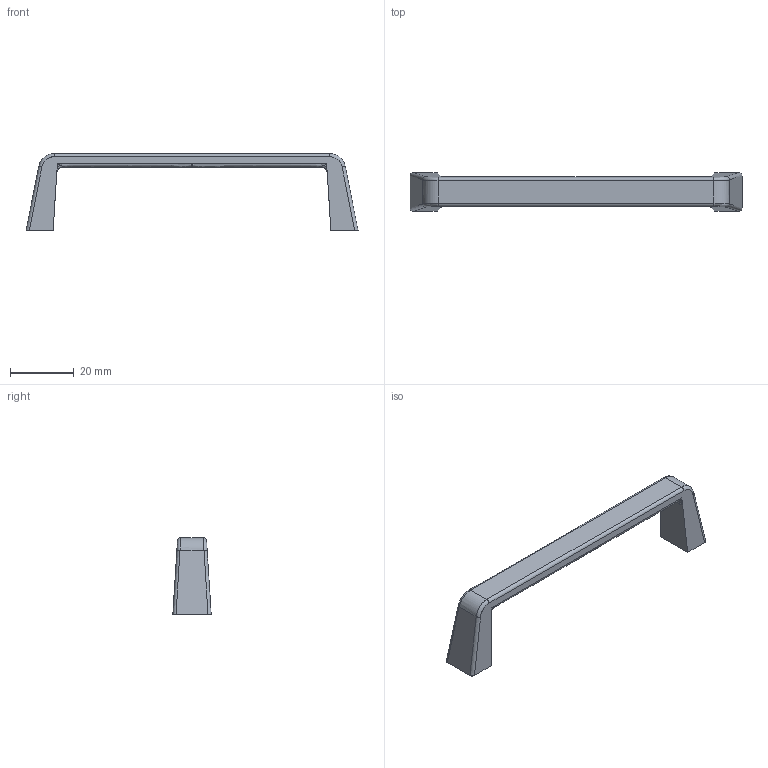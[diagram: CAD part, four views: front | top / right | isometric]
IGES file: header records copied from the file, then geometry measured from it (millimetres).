
Start section: SolidWorks IGES file using analytic representation for surfaces
Global section: file name: E:\NEW PRODUCT FOR 2015\DHUZ-95\DHUZ-95.IGS; native system: SolidWorks 2014; preprocessor: SolidWorks 2014; author: solidworks; date: 141004.130332; units: millimetre
Bounding box: 104 x 12 x 24 mm (x, y, z)
Surface area: 4072.4 mm2 (no closed solid volume)
Topology: 0 solids, 0 shells, 47 faces, 454 edges, 454 vertices
Faces by surface type: bspline 29, revolution 18
